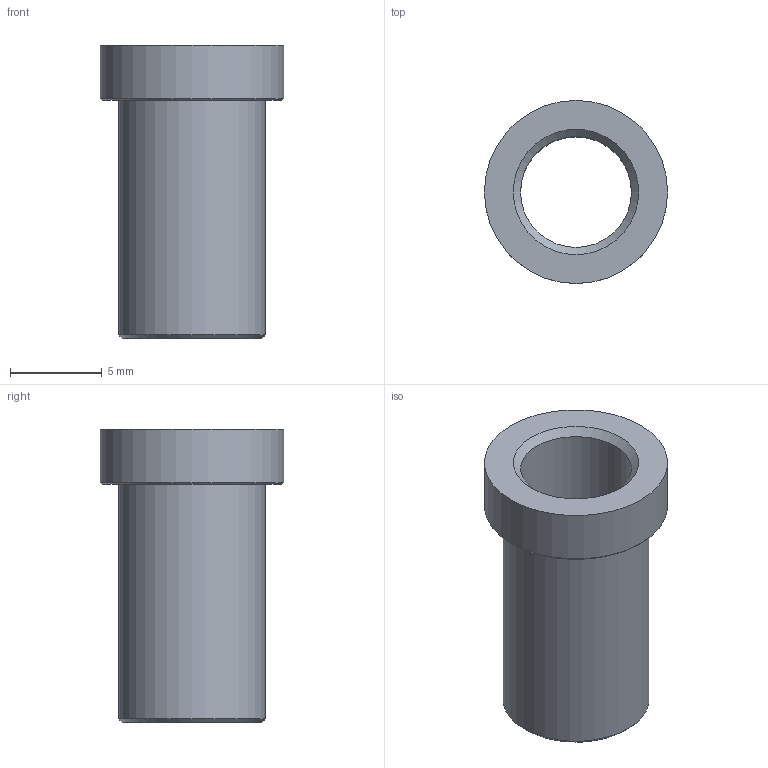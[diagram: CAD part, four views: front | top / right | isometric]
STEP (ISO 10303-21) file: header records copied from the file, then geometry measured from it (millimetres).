
FILE_DESCRIPTION(/* description */ ('Tapped Bushing'),/* implementation_level */ '2;1');
FILE_NAME(/* name */ 'Z:\Werkstatt Server\Projekte\Atlas\Entwicklung u. Konstruktion\Konstruktion\CAD Daten\ITkPixToolV2.0\Baremodule Jig\Pivote Plate\ITPTv2.01.01.03.stp',/* time_stamp */ '2021-08-06T14:18:09+02:00',/* author */ ('Tim Kanngießer'),/* organization */ (''),/* preprocessor_version */ 'ST-DEVELOPER v18.1',/* originating_system */ 'Autodesk Inventor 2022',/* authorisation */ '');
FILE_SCHEMA (('AUTOMOTIVE_DESIGN { 1 0 10303 214 3 1 1 }'));
Length unit declared in the file: millimetre
Products named in the file (1): ITPTv2.01.01.03
Bounding box: 10 x 10 x 16 mm (x, y, z)
Volume: 425.3 mm3; surface area: 811.3 mm2
Topology: 1 solids, 1 shells, 10 faces, 20 edges, 13 vertices
Faces by surface type: cone 4, cylinder 3, plane 3
Full cylindrical faces by diameter (mm): 6.05 x1, 8 x1, 10 x1
Entity records: 314 total; most frequent: DIRECTION 55, CARTESIAN_POINT 44, ORIENTED_EDGE 40, AXIS2_PLACEMENT_3D 24, EDGE_CURVE 20, EDGE_LOOP 13, CIRCLE 13, VERTEX_POINT 13
